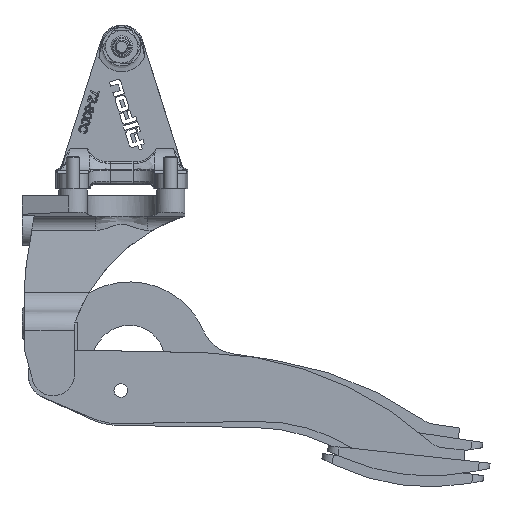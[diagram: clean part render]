
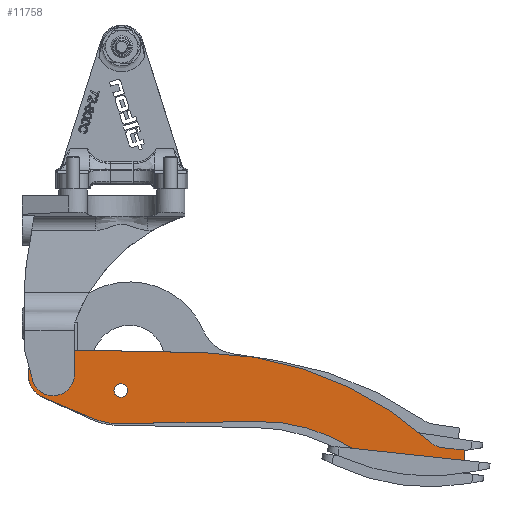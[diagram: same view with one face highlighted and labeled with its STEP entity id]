
A CAD part, left-side view. The second image highlights one B-rep face of the part: STEP entity #11758.
In plain terms, the highlighted planar face has unit normal (-1, 0, 0).
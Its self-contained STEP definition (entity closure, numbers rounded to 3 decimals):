
#500=PLANE('',#12555);
#854=CIRCLE('',#12502,38.1);
#864=CIRCLE('',#12533,14.605);
#868=CIRCLE('',#12539,203.2);
#870=CIRCLE('',#12542,12.7);
#872=CIRCLE('',#12547,101.6);
#874=CIRCLE('',#12552,4.013);
#876=CIRCLE('',#12556,12.446);
#1258=LINE('',#16878,#2232);
#1277=LINE('',#16934,#2251);
#1295=LINE('',#16992,#2269);
#1301=LINE('',#17012,#2275);
#1303=LINE('',#17016,#2277);
#1308=LINE('',#17028,#2282);
#1311=LINE('',#17041,#2285);
#1312=LINE('',#17043,#2286);
#2232=VECTOR('',#13721,1000.);
#2251=VECTOR('',#13772,1000.);
#2269=VECTOR('',#13834,1000.);
#2275=VECTOR('',#13854,1000.);
#2277=VECTOR('',#13858,1000.);
#2282=VECTOR('',#13871,1000.);
#2285=VECTOR('',#13888,1000.);
#2286=VECTOR('',#13889,1000.);
#3478=ORIENTED_EDGE('',*,*,#6860,.F.);
#3479=ORIENTED_EDGE('',*,*,#6829,.T.);
#3480=ORIENTED_EDGE('',*,*,#6778,.T.);
#3481=ORIENTED_EDGE('',*,*,#6786,.T.);
#3482=ORIENTED_EDGE('',*,*,#6854,.T.);
#3483=ORIENTED_EDGE('',*,*,#6850,.F.);
#3484=ORIENTED_EDGE('',*,*,#6806,.F.);
#3485=ORIENTED_EDGE('',*,*,#6847,.T.);
#3486=ORIENTED_EDGE('',*,*,#6845,.T.);
#3487=ORIENTED_EDGE('',*,*,#6842,.F.);
#3488=ORIENTED_EDGE('',*,*,#6839,.T.);
#3489=ORIENTED_EDGE('',*,*,#6835,.T.);
#3490=ORIENTED_EDGE('',*,*,#6861,.F.);
#3491=ORIENTED_EDGE('',*,*,#6862,.T.);
#3492=ORIENTED_EDGE('',*,*,#6856,.F.);
#6778=EDGE_CURVE('',#8521,#8520,#1258,.T.);
#6786=EDGE_CURVE('',#8520,#8527,#854,.T.);
#6806=EDGE_CURVE('',#8540,#8542,#1277,.T.);
#6829=EDGE_CURVE('',#8555,#8521,#864,.T.);
#6835=EDGE_CURVE('',#8560,#8559,#1295,.T.);
#6839=EDGE_CURVE('',#8563,#8560,#868,.T.);
#6842=EDGE_CURVE('',#8563,#8565,#870,.T.);
#6845=EDGE_CURVE('',#8567,#8565,#1301,.T.);
#6847=EDGE_CURVE('',#8540,#8567,#1303,.T.);
#6850=EDGE_CURVE('',#8542,#8569,#872,.T.);
#6854=EDGE_CURVE('',#8527,#8569,#1308,.T.);
#6856=EDGE_CURVE('',#8571,#8571,#874,.T.);
#6860=EDGE_CURVE('',#8555,#8574,#1311,.T.);
#6861=EDGE_CURVE('',#8575,#8559,#1312,.T.);
#6862=EDGE_CURVE('',#8575,#8574,#876,.T.);
#8520=VERTEX_POINT('',#16877);
#8521=VERTEX_POINT('',#16879);
#8527=VERTEX_POINT('',#16893);
#8540=VERTEX_POINT('',#16932);
#8542=VERTEX_POINT('',#16935);
#8555=VERTEX_POINT('',#16981);
#8559=VERTEX_POINT('',#16991);
#8560=VERTEX_POINT('',#16993);
#8563=VERTEX_POINT('',#17001);
#8565=VERTEX_POINT('',#17007);
#8567=VERTEX_POINT('',#17013);
#8569=VERTEX_POINT('',#17022);
#8571=VERTEX_POINT('',#17033);
#8574=VERTEX_POINT('',#17042);
#8575=VERTEX_POINT('',#17044);
#9809=EDGE_LOOP('',(#3478,#3479,#3480,#3481,#3482,#3483,#3484,#3485,#3486,
#3487,#3488,#3489,#3490,#3491));
#9810=EDGE_LOOP('',(#3492));
#10678=FACE_BOUND('',#9809,.T.);
#10679=FACE_BOUND('',#9810,.T.);
#11758=ADVANCED_FACE('',(#10678,#10679),#500,.T.);
#12502=AXIS2_PLACEMENT_3D('',#16894,#13733,#13734);
#12533=AXIS2_PLACEMENT_3D('',#16980,#13823,#13824);
#12539=AXIS2_PLACEMENT_3D('',#17000,#13841,#13842);
#12542=AXIS2_PLACEMENT_3D('',#17006,#13848,#13849);
#12547=AXIS2_PLACEMENT_3D('',#17021,#13864,#13865);
#12552=AXIS2_PLACEMENT_3D('',#17032,#13878,#13879);
#12555=AXIS2_PLACEMENT_3D('',#17040,#13886,#13887);
#12556=AXIS2_PLACEMENT_3D('',#17045,#13890,#13891);
#13721=DIRECTION('',(0.,-0.921,-0.39));
#13733=DIRECTION('',(-1.,0.,0.));
#13734=DIRECTION('',(0.,1.,-0.015));
#13772=DIRECTION('',(0.,0.994,0.107));
#13823=DIRECTION('',(-1.,0.,0.));
#13824=DIRECTION('',(0.,1.,-0.015));
#13834=DIRECTION('',(0.,1.,0.02));
#13841=DIRECTION('',(-1.,0.,0.));
#13842=DIRECTION('',(0.,1.,-0.015));
#13848=DIRECTION('',(-1.,0.,0.));
#13849=DIRECTION('',(0.,1.,-0.015));
#13854=DIRECTION('',(0.,0.994,0.107));
#13858=DIRECTION('',(0.,0.015,1.));
#13864=DIRECTION('',(-1.,0.,0.));
#13865=DIRECTION('',(0.,1.,-0.015));
#13871=DIRECTION('',(0.,-1.,0.015));
#13878=DIRECTION('',(-1.,0.,0.));
#13879=DIRECTION('',(0.,1.,-0.015));
#13886=DIRECTION('',(-1.,0.,0.));
#13887=DIRECTION('',(0.,1.,-0.015));
#13888=DIRECTION('',(0.,-0.259,-0.966));
#13889=DIRECTION('',(0.,0.,1.));
#13890=DIRECTION('',(1.,0.,0.));
#13891=DIRECTION('',(0.,0.,-1.));
#16877=CARTESIAN_POINT('',(-174.498,-23.171,-134.354));
#16878=CARTESIAN_POINT('',(-174.498,5.638,-122.162));
#16879=CARTESIAN_POINT('',(-174.498,5.638,-122.162));
#16893=CARTESIAN_POINT('',(-174.498,-38.576,-137.363));
#16894=CARTESIAN_POINT('',(-174.498,-38.02,-99.267));
#16932=CARTESIAN_POINT('',(-174.498,-240.844,-158.987));
#16934=CARTESIAN_POINT('',(-174.498,-259.935,-161.049));
#16935=CARTESIAN_POINT('',(-174.498,-175.254,-151.904));
#16980=CARTESIAN_POINT('',(-174.498,-0.054,-108.712));
#16981=CARTESIAN_POINT('',(-174.498,13.946,-104.551));
#16991=CARTESIAN_POINT('',(-174.498,-12.5,-94.357));
#16992=CARTESIAN_POINT('',(-174.498,-0.351,-94.11));
#16993=CARTESIAN_POINT('',(-174.498,-88.776,-95.906));
#17000=CARTESIAN_POINT('',(-174.498,-84.651,-299.064));
#17001=CARTESIAN_POINT('',(-174.498,-220.923,-148.332));
#17006=CARTESIAN_POINT('',(-174.498,-229.44,-138.911));
#17007=CARTESIAN_POINT('',(-174.498,-228.076,-151.537));
#17012=CARTESIAN_POINT('',(-174.498,-240.755,-152.907));
#17013=CARTESIAN_POINT('',(-174.498,-240.755,-152.907));
#17016=CARTESIAN_POINT('',(-174.498,-240.893,-162.351));
#17021=CARTESIAN_POINT('',(-174.498,-120.945,-237.771));
#17022=CARTESIAN_POINT('',(-174.498,-119.462,-136.182));
#17028=CARTESIAN_POINT('',(-174.498,-119.462,-136.182));
#17032=CARTESIAN_POINT('',(-174.498,-39.691,-118.04));
#17033=CARTESIAN_POINT('',(-174.498,-35.679,-118.099));
#17040=CARTESIAN_POINT('',(-174.498,-258.414,-175.139));
#17041=CARTESIAN_POINT('',(-174.498,11.411,-114.01));
#17042=CARTESIAN_POINT('',(-174.498,11.968,-111.933));
#17043=CARTESIAN_POINT('',(-174.498,-12.5,-85.09));
#17044=CARTESIAN_POINT('',(-174.498,-12.5,-108.712));
#17045=CARTESIAN_POINT('',(-174.498,-0.054,-108.712));
